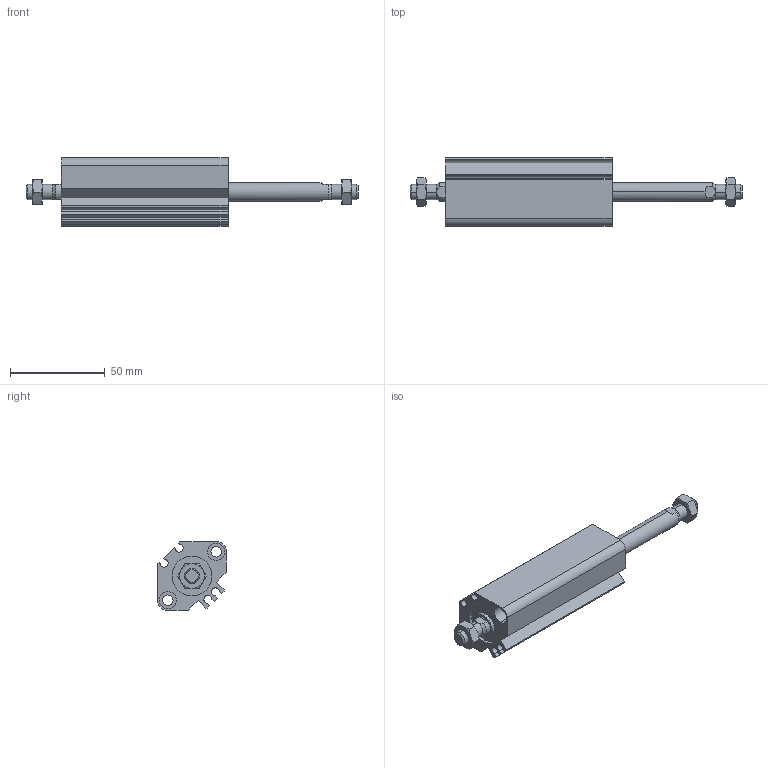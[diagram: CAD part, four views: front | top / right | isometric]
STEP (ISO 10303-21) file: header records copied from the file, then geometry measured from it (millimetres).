
FILE_DESCRIPTION (( 'STEP AP203' ), '1' );
FILE_NAME ('CCMB20-50M-P.STEP', '2020-08-10T11:23:08', ( '' ), ( '' ), 'SwSTEP 2.0', 'SolidWorks 2019', '' );
FILE_SCHEMA (( 'CONFIG_CONTROL_DESIGN' ));
Length unit declared in the file: millimetre
Products named in the file (1): CCMB20-50M-P
Bounding box: 175 x 36 x 36 mm (x, y, z)
Volume: 80864 mm3; surface area: 33453 mm2
Topology: 4 solids, 4 shells, 166 faces, 384 edges, 240 vertices
Faces by surface type: plane 66, cylinder 56, cone 44
Entity records: 5367 total; most frequent: CARTESIAN_POINT 1507, DIRECTION 806, ORIENTED_EDGE 768, EDGE_CURVE 384, AXIS2_PLACEMENT_3D 319, VERTEX_POINT 240, EDGE_LOOP 190, VECTOR 168
